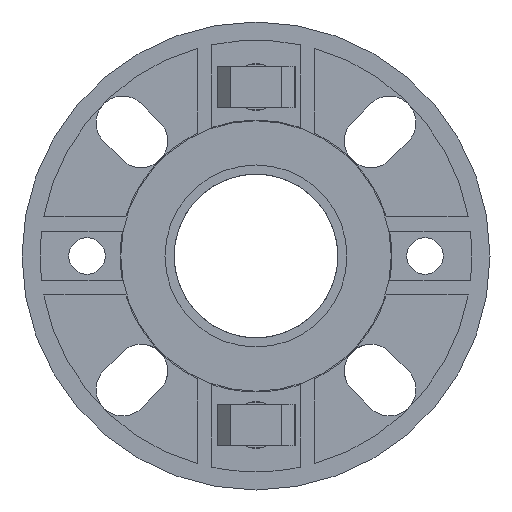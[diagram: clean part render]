
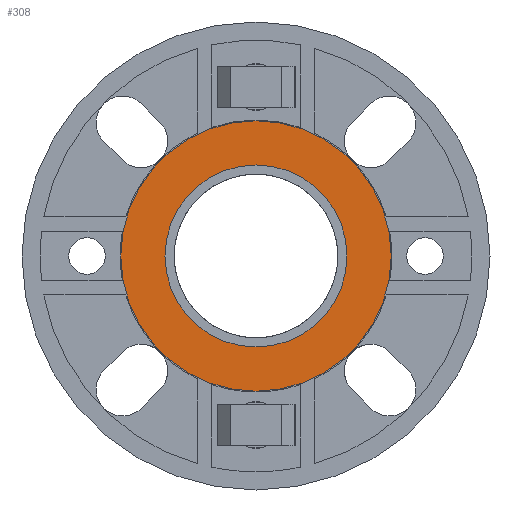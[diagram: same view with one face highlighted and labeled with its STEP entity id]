
A CAD part, front view. The second image highlights one B-rep face of the part: STEP entity #308.
In plain terms, the highlighted planar face has unit normal (0, -1, 0).
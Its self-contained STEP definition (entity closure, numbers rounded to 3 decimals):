
#29 = EDGE_LOOP ( 'NONE', ( #4786, #6272 ) ) ;
#99 = DIRECTION ( 'NONE',  ( 0., 0., 1. ) ) ;
#308 = ADVANCED_FACE ( 'Defeatured_0_106', ( #7433, #6045 ), #1077, .F. ) ;
#386 = CARTESIAN_POINT ( 'NONE',  ( 0., -3., 0. ) ) ;
#935 = DIRECTION ( 'NONE',  ( 0., 0., 1. ) ) ;
#1077 = PLANE ( 'NONE',  #2211 ) ;
#1735 = DIRECTION ( 'NONE',  ( 0., 1., 0. ) ) ;
#1857 = CIRCLE ( 'NONE', #5666, 35. ) ;
#2211 = AXIS2_PLACEMENT_3D ( 'NONE', #386, #3244, #3294 ) ;
#2323 = VERTEX_POINT ( 'NONE', #2623 ) ;
#2585 = AXIS2_PLACEMENT_3D ( 'NONE', #4345, #7892, #935 ) ;
#2623 = CARTESIAN_POINT ( 'NONE',  ( 0., -3., 35. ) ) ;
#2862 = AXIS2_PLACEMENT_3D ( 'NONE', #7393, #1735, #6106 ) ;
#2875 = CARTESIAN_POINT ( 'NONE',  ( 0., -3., 52. ) ) ;
#3179 = CARTESIAN_POINT ( 'NONE',  ( 0., -3., 0. ) ) ;
#3244 = DIRECTION ( 'NONE',  ( 0., 1., 0. ) ) ;
#3294 = DIRECTION ( 'NONE',  ( 0., 0., 1. ) ) ;
#3468 = CIRCLE ( 'NONE', #2585, 52. ) ;
#3539 = EDGE_CURVE ( 'Defeatured_0_107+Defeatured_0_106+Defeatured_0_106+Defeatured_0_106', #6204, #8604, #7248, .T. ) ;
#3696 = DIRECTION ( 'NONE',  ( 0., 1., 0. ) ) ;
#4345 = CARTESIAN_POINT ( 'NONE',  ( 0., -3., 0. ) ) ;
#4375 = EDGE_CURVE ( 'Defeatured_0_106+Defeatured_0_136+Defeatured_0_136+Defeatured_0_136', #7069, #2323, #6379, .T. ) ;
#4385 = CARTESIAN_POINT ( 'NONE',  ( 0., -3., 0. ) ) ;
#4786 = ORIENTED_EDGE ( 'NONE', *, *, #3539, .F. ) ;
#5279 = DIRECTION ( 'NONE',  ( 0., 1., 0. ) ) ;
#5631 = AXIS2_PLACEMENT_3D ( 'NONE', #4385, #3696, #99 ) ;
#5666 = AXIS2_PLACEMENT_3D ( 'NONE', #3179, #5279, #5840 ) ;
#5723 = EDGE_CURVE ( 'Defeatured_0_106+Defeatured_0_136+Defeatured_0_136+Defeatured_0_136', #2323, #7069, #1857, .T. ) ;
#5840 = DIRECTION ( 'NONE',  ( 0., 0., 1. ) ) ;
#5942 = EDGE_CURVE ( 'Defeatured_0_107+Defeatured_0_106+Defeatured_0_106+Defeatured_0_106', #8604, #6204, #3468, .T. ) ;
#5964 = ORIENTED_EDGE ( 'NONE', *, *, #4375, .T. ) ;
#6045 = FACE_OUTER_BOUND ( 'NONE', #29, .T. ) ;
#6106 = DIRECTION ( 'NONE',  ( 0., 0., 1. ) ) ;
#6204 = VERTEX_POINT ( 'NONE', #7655 ) ;
#6272 = ORIENTED_EDGE ( 'NONE', *, *, #5942, .F. ) ;
#6379 = CIRCLE ( 'NONE', #2862, 35. ) ;
#7069 = VERTEX_POINT ( 'NONE', #7626 ) ;
#7248 = CIRCLE ( 'NONE', #5631, 52. ) ;
#7393 = CARTESIAN_POINT ( 'NONE',  ( 0., -3., 0. ) ) ;
#7433 = FACE_BOUND ( 'NONE', #8460, .T. ) ;
#7602 = ORIENTED_EDGE ( 'NONE', *, *, #5723, .T. ) ;
#7626 = CARTESIAN_POINT ( 'NONE',  ( 0., -3., -35. ) ) ;
#7655 = CARTESIAN_POINT ( 'NONE',  ( 0., -3., -52. ) ) ;
#7892 = DIRECTION ( 'NONE',  ( 0., 1., 0. ) ) ;
#8460 = EDGE_LOOP ( 'NONE', ( #5964, #7602 ) ) ;
#8604 = VERTEX_POINT ( 'NONE', #2875 ) ;
